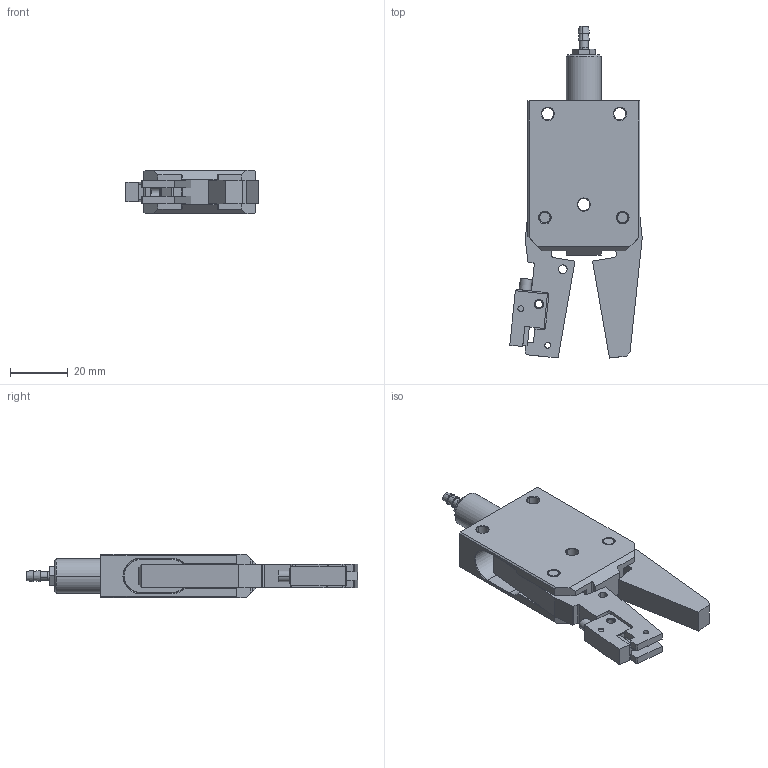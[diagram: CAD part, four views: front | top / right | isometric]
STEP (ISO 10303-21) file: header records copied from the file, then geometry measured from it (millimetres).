
FILE_DESCRIPTION (( 'STEP AP214' ), '1' );
FILE_NAME ('GRL12A-CN.STEP', '2019-11-12T03:09:57', ( '微软用户' ), ( '微软中国' ), 'SwSTEP 2.0', 'SolidWorks 2016', '' );
FILE_SCHEMA (( 'AUTOMOTIVE_DESIGN' ));
Length unit declared in the file: millimetre
Products named in the file (1): GRL12A-CN
Bounding box: 45.96 x 115.22 x 15 mm (x, y, z)
Volume: 32188.3 mm3; surface area: 21694.1 mm2
Topology: 10 solids, 10 shells, 408 faces, 1040 edges, 662 vertices
Faces by surface type: plane 197, cylinder 125, cone 64, bspline 22
Entity records: 18011 total; most frequent: CARTESIAN_POINT 3327, DIRECTION 2132, ORIENTED_EDGE 2072, EDGE_CURVE 1036, AXIS2_PLACEMENT_3D 739, VERTEX_POINT 662, VECTOR 654, LINE 654
